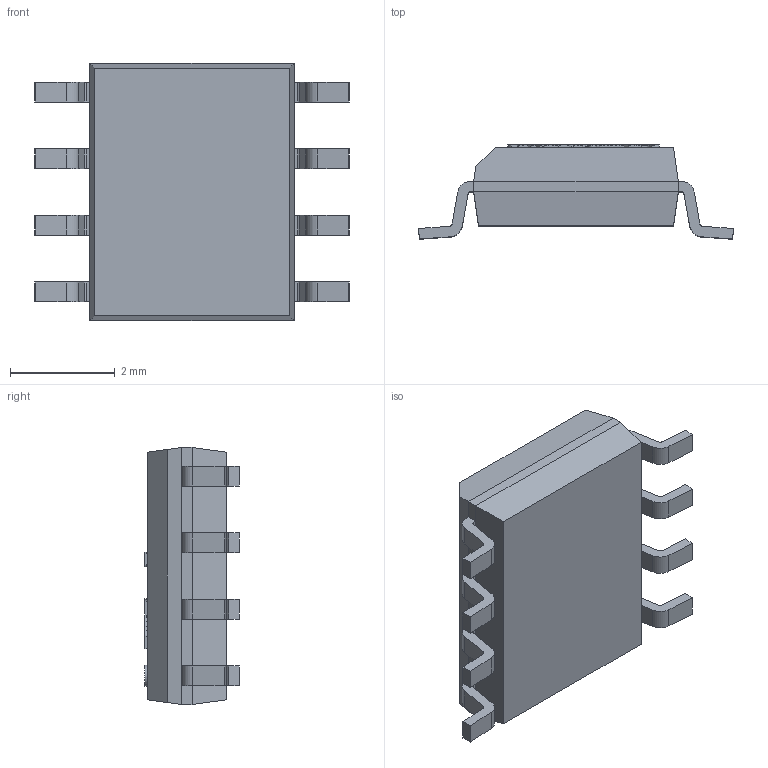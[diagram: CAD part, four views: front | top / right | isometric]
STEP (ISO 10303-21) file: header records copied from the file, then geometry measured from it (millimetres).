
FILE_DESCRIPTION(/* description */ ('STEP AP214'),/* implementation_level */ '2;1');
FILE_NAME(/* name */ 'MergenElektronik_Logics_Comparators_SOIC-8-INA240A4DR.step',/* time_stamp */ '2025-08-03T15:52:21+03:00',/* author */ (''),/* organization */ (''),/* preprocessor_version */ 'ST-DEVELOPER v20.1',/* originating_system */ 'Autodesk Translation Framework v14.10.0.0',/* authorisation */ '');
FILE_SCHEMA (('AUTOMOTIVE_DESIGN { 1 0 10303 214 3 1 1 }'));
Length unit declared in the file: millimetre
Products named in the file (1): STM32G030J6M6TR
Bounding box: 6 x 1.8 x 4.9 mm (x, y, z)
Volume: 28.4 mm3; surface area: 79.3 mm2
Topology: 9 solids, 9 shells, 849 faces, 2371 edges, 1578 vertices
Faces by surface type: plane 469, bspline 347, cylinder 33
Full cylindrical faces by diameter (mm): 0.4 x1
Entity records: 29245 total; most frequent: CARTESIAN_POINT 10092, ORIENTED_EDGE 4742, DIRECTION 2740, EDGE_CURVE 2371, LINE 1602, VECTOR 1602, VERTEX_POINT 1578, EDGE_LOOP 887
